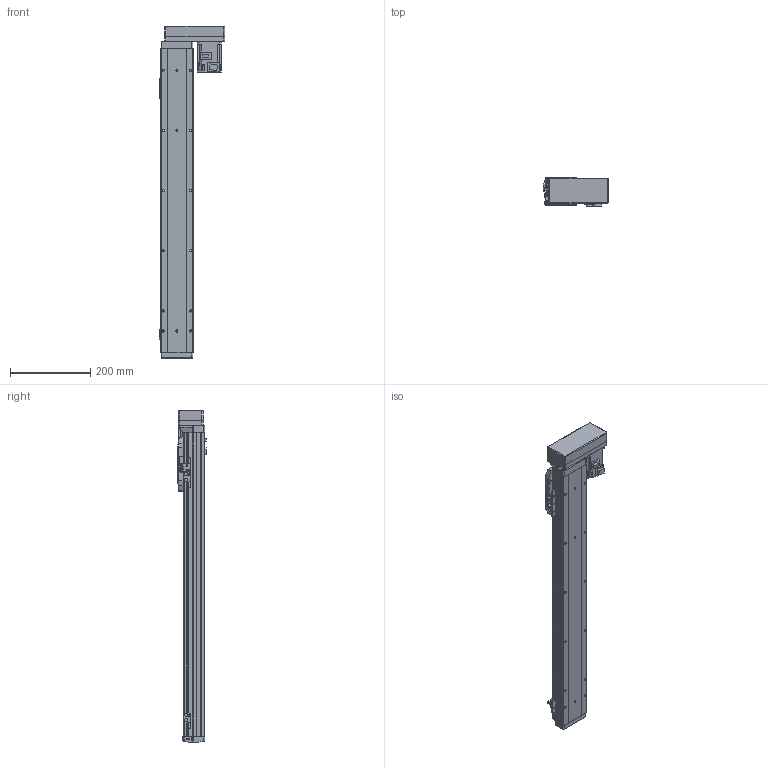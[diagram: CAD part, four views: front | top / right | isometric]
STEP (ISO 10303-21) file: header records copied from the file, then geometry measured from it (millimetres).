
FILE_DESCRIPTION (( 'STEP AP214' ), '1' );
FILE_NAME ('GSH8-600-BL-M20-1.step', '2025-01-07T06:06:12', ( '' ), ( '' ), 'SwSTEP 2.0', 'SolidWorks 2012', '' );
FILE_SCHEMA (( 'AUTOMOTIVE_DESIGN' ));
Length unit declared in the file: millimetre
Products named in the file (5): GSH8-600-BL-M20-1; GSH8-BL-008; GSH8-GY-004; HG-KR23_200W_Motor; GSH8-BL-011-600-M20
Assembly tree (4 placements, depth 2):
  GSH8-600-BL-M20-1
    GSH8-BL-011-600-M20
    GSH8-GY-004
    GSH8-BL-008
    HG-KR23_200W_Motor
Bounding box: 163 x 71.3 x 828.2 mm (x, y, z)
Volume: 2078376.1 mm3; surface area: 515097.1 mm2
Topology: 4 solids, 8 shells, 1133 faces, 2972 edges, 1912 vertices
Faces by surface type: plane 642, cylinder 395, torus 42, cone 26, bspline 24, sphere 4
Entity records: 44954 total; most frequent: CARTESIAN_POINT 10618, DIRECTION 6032, ORIENTED_EDGE 5928, EDGE_CURVE 2964, AXIS2_PLACEMENT_3D 2030, LINE 1972, VECTOR 1972, VERTEX_POINT 1908
